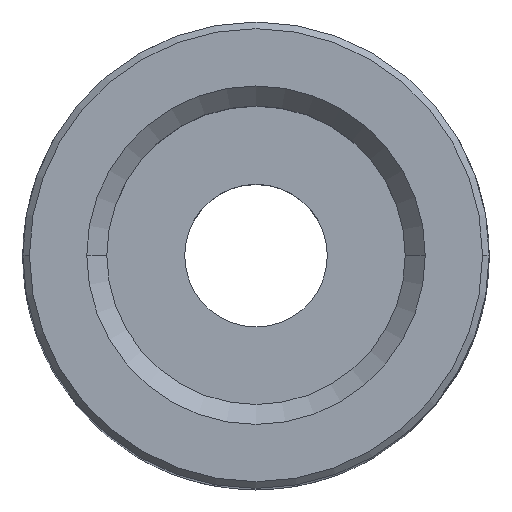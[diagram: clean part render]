
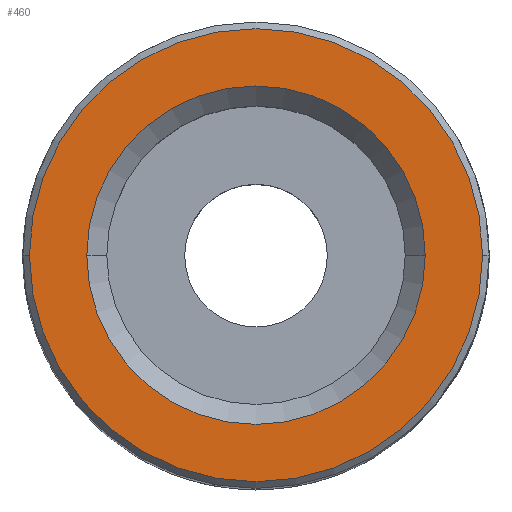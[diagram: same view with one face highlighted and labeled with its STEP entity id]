
A CAD part, top view. The second image highlights one B-rep face of the part: STEP entity #460.
In plain terms, the highlighted planar face has unit normal (0, 0, 1).
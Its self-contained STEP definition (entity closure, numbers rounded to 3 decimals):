
#16 = CARTESIAN_POINT ( 'NONE',  ( -12.7, 0., 70. ) ) ;
#94 = ORIENTED_EDGE ( 'NONE', *, *, #1266, .T. ) ;
#145 = AXIS2_PLACEMENT_3D ( 'NONE', #362, #524, #1184 ) ;
#182 = CARTESIAN_POINT ( 'NONE',  ( 0., 0., 70. ) ) ;
#235 = CIRCLE ( 'NONE', #843, 12.7 ) ;
#242 = FACE_BOUND ( 'NONE', #1044, .T. ) ;
#246 = CARTESIAN_POINT ( 'NONE',  ( 17., 0., 70. ) ) ;
#274 = ORIENTED_EDGE ( 'NONE', *, *, #748, .T. ) ;
#321 = CIRCLE ( 'NONE', #145, 17. ) ;
#362 = CARTESIAN_POINT ( 'NONE',  ( 0., 0., 70. ) ) ;
#395 = EDGE_CURVE ( 'NONE', #1457, #564, #1470, .T. ) ;
#460 = ADVANCED_FACE ( 'NONE', ( #1787, #242 ), #1515, .T. ) ;
#524 = DIRECTION ( 'NONE',  ( 0., 0., 1. ) ) ;
#540 = DIRECTION ( 'NONE',  ( 0., 0., 1. ) ) ;
#564 = VERTEX_POINT ( 'NONE', #965 ) ;
#569 = DIRECTION ( 'NONE',  ( 1., 0., 0. ) ) ;
#607 = DIRECTION ( 'NONE',  ( 1., 0., 0. ) ) ;
#728 = AXIS2_PLACEMENT_3D ( 'NONE', #1057, #540, #1623 ) ;
#734 = DIRECTION ( 'NONE',  ( 1., 0., 0. ) ) ;
#738 = VERTEX_POINT ( 'NONE', #16 ) ;
#742 = CARTESIAN_POINT ( 'NONE',  ( 0., 0., 70. ) ) ;
#748 = EDGE_CURVE ( 'NONE', #1428, #738, #1724, .T. ) ;
#758 = CARTESIAN_POINT ( 'NONE',  ( 12.7, 0., 70. ) ) ;
#763 = AXIS2_PLACEMENT_3D ( 'NONE', #742, #1035, #734 ) ;
#815 = ORIENTED_EDGE ( 'NONE', *, *, #1082, .T. ) ;
#843 = AXIS2_PLACEMENT_3D ( 'NONE', #182, #1316, #607 ) ;
#951 = CARTESIAN_POINT ( 'NONE',  ( 0., 0., 70. ) ) ;
#965 = CARTESIAN_POINT ( 'NONE',  ( -17., 0., 70. ) ) ;
#1035 = DIRECTION ( 'NONE',  ( 0., 0., 1. ) ) ;
#1044 = EDGE_LOOP ( 'NONE', ( #274, #815 ) ) ;
#1057 = CARTESIAN_POINT ( 'NONE',  ( 0., 0., 70. ) ) ;
#1082 = EDGE_CURVE ( 'NONE', #738, #1428, #235, .T. ) ;
#1184 = DIRECTION ( 'NONE',  ( 1., 0., 0. ) ) ;
#1266 = EDGE_CURVE ( 'NONE', #564, #1457, #321, .T. ) ;
#1316 = DIRECTION ( 'NONE',  ( 0., 0., -1. ) ) ;
#1428 = VERTEX_POINT ( 'NONE', #758 ) ;
#1457 = VERTEX_POINT ( 'NONE', #246 ) ;
#1470 = CIRCLE ( 'NONE', #763, 17. ) ;
#1515 = PLANE ( 'NONE',  #728 ) ;
#1518 = DIRECTION ( 'NONE',  ( 0., 0., -1. ) ) ;
#1607 = AXIS2_PLACEMENT_3D ( 'NONE', #951, #1518, #569 ) ;
#1623 = DIRECTION ( 'NONE',  ( 1., 0., 0. ) ) ;
#1691 = ORIENTED_EDGE ( 'NONE', *, *, #395, .T. ) ;
#1724 = CIRCLE ( 'NONE', #1607, 12.7 ) ;
#1787 = FACE_OUTER_BOUND ( 'NONE', #1812, .T. ) ;
#1812 = EDGE_LOOP ( 'NONE', ( #94, #1691 ) ) ;
